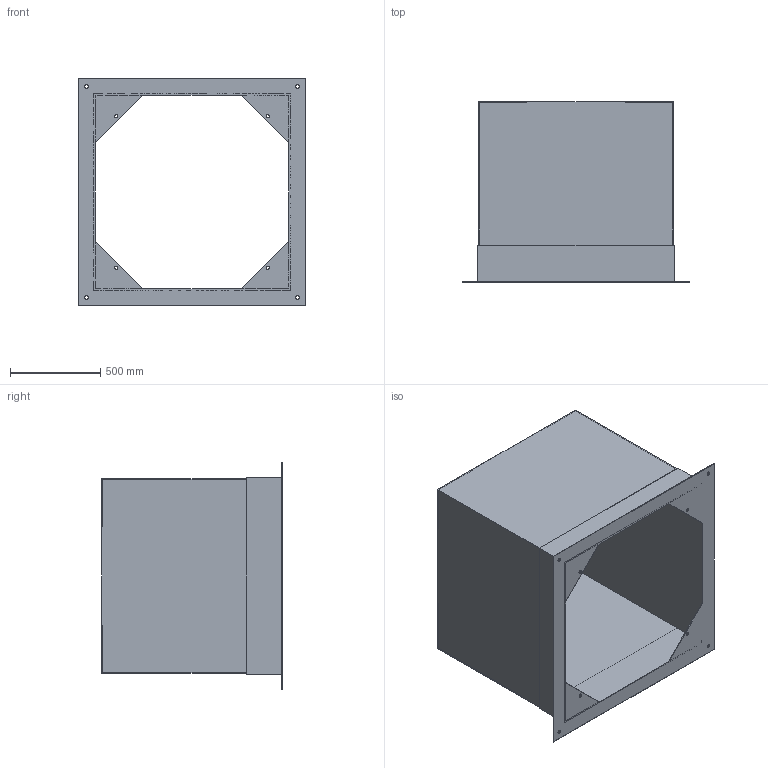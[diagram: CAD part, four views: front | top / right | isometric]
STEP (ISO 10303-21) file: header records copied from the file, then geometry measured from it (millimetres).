
FILE_DESCRIPTION(('STEP AP214'),'1');
FILE_NAME('accessory_5136867800.stp','2017-10-09T10:29:47',('TraceParts'),('TraceParts S.A.'),'Spatial InterOp 3D',' ',' ');
FILE_SCHEMA(('automotive_design'));
Length unit declared in the file: millimetre
Products named in the file (1): accessory_5136867800
Bounding box: 1260 x 1000 x 1260 mm (x, y, z)
Volume: 23386313.5 mm3; surface area: 10034831.8 mm2
Topology: 1 solids, 1 shells, 60 faces, 168 edges, 112 vertices
Faces by surface type: plane 36, cylinder 24
Entity records: 2488 total; most frequent: CARTESIAN_POINT 341, DIRECTION 338, ORIENTED_EDGE 336, EDGE_CURVE 168, LINE 120, VECTOR 120, VERTEX_POINT 112, AXIS2_PLACEMENT_3D 109
